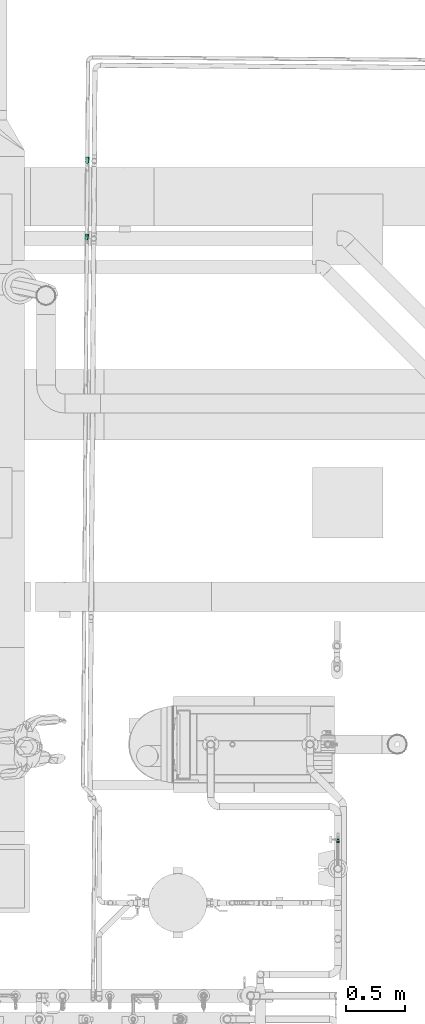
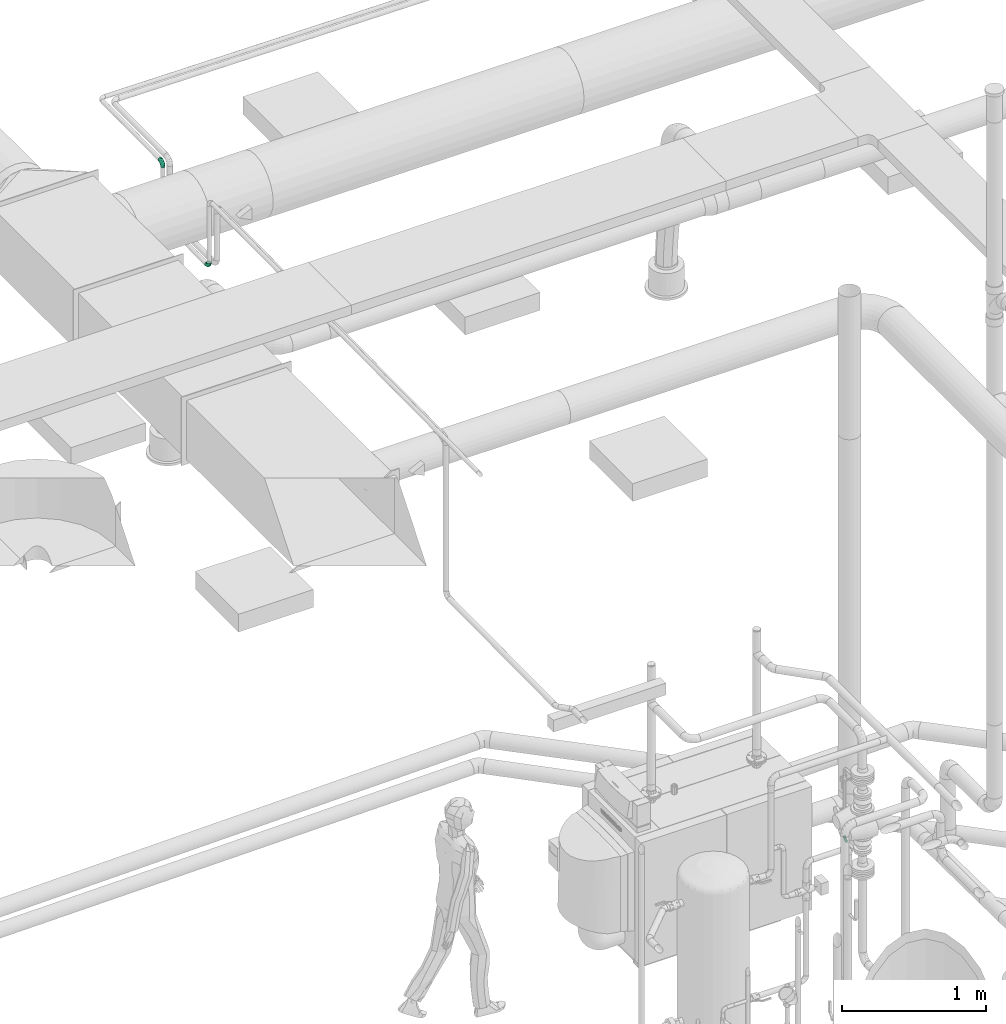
# One storey, part 198 of 374: 3 flow segments.
"""IFC2X3 building model written with IfcOpenShell, lengths in metres."""

from ifc_helpers import new_model, si_unit, direction, origin, place, context, subcontext, project, spatial, open_shell, surface_model, source, transform, mapped, element, save


model = new_model("IFC2X3")

# Units and contexts
model_context = context("Model", 3, precision=1e-05, world=origin(), true_north=direction((-0.4480736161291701, 0.8939966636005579)))
body_context = subcontext(model_context, "Body", "Model", "MODEL_VIEW")
ifc_project = project(units=[si_unit("LENGTHUNIT", "METRE"), si_unit("AREAUNIT", "SQUARE_METRE"), si_unit("VOLUMEUNIT", "CUBIC_METRE"), si_unit("PLANEANGLEUNIT", "RADIAN"), si_unit("THERMODYNAMICTEMPERATUREUNIT", "KELVIN"), si_unit("MASSUNIT", "GRAM", prefix="KILO"), si_unit("TIMEUNIT", "SECOND")], contexts=[model_context])

# Site, building, storey
site_placement = place(None, origin())
site = spatial("IfcSite", under=ifc_project, at=site_placement, Name="Site 1", CompositionType="ELEMENT")
building_placement = place(site_placement, origin())
building = spatial("IfcBuilding", under=site, at=building_placement, Name="Undefined", CompositionType="ELEMENT")
storey_placement = place(building_placement, origin())
storey = spatial("IfcBuildingStorey", under=building, at=storey_placement, Name="Rez de chauss\x8ee", CompositionType="ELEMENT", Elevation=0.0)

# Flow segments
shared_shape_1 = source(origin(), body_context, "Body", "SurfaceModel", [
    surface_model("IfcFaceBasedSurfaceModel", [(0.010089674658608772, 0.0, 1.33226763e-15), (0.010042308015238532, 0.002779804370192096, 1.33226763e-15), (4.73666433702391e-05, 0.0027798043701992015, 4.4408921e-16), (0.0, 0.0, 0.0), (-0.009607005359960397, 0.00311462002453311, -0.0025651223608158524), (-0.00974587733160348, 0.0003379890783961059, -0.0025894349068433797), (-0.01826287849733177, 0.003761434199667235, -0.007520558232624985), (-0.018483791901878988, 0.000990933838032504, -0.007591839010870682), (-0.025330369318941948, 0.004676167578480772, -0.014528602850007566), (-0.025618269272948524, 0.001914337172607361, -0.014666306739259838), (-0.030327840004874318, 0.005796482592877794, -0.023111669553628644), (-0.030663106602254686, 0.003045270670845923, -0.023330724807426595), (-0.03291472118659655, 0.00704603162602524, -0.03268483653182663), (-0.03327450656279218, 0.004306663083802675, -0.0329946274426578), (0.009903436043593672, 0.005463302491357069, -0.000713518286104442), (0.000186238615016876, 0.005463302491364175, -0.0007135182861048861), (-0.009199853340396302, 0.005788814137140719, -0.0032073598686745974), (-0.017615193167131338, 0.006417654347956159, -0.008025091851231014), (-0.02448628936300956, 0.007306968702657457, -0.014838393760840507), (-0.029344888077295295, 0.008396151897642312, -0.023182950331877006), (-0.031859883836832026, 0.009610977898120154, -0.0324900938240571), (0.009682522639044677, 0.007867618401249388, -0.002091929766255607), (0.0004071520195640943, 0.007867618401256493, -0.002091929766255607), (-0.008552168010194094, 0.008178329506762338, -0.004472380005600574), (-0.0165848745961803, 0.008778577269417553, -0.00907105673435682), (-0.023143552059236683, 0.00962745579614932, -0.015574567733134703), (-0.027781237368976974, 0.010667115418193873, -0.023539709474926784), (-0.030181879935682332, 0.011826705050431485, -0.03242367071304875), (0.009394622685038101, 0.009828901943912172, -0.0040412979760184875), (0.000695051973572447, 0.009828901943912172, -0.0040412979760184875), (-0.007708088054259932, 0.010120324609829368, -0.006273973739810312), (-0.015242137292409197, 0.010683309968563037, -0.010587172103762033), (-0.02139366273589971, 0.011479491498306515, -0.01668695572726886), (-0.0257434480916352, 0.012454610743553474, -0.02415763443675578), (-0.027995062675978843, 0.013542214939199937, -0.03249009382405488), (0.00905935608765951, 0.011213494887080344, -0.006428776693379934), (0.0010303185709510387, 0.01121349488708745, -0.006428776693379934), (-0.006725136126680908, 0.011482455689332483, -0.00848936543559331), (-0.0136784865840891, 0.01200204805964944, -0.01247011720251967), (-0.01935587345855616, 0.012736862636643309, -0.018099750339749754), (-0.02337039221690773, 0.013636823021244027, -0.024994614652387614), (-0.02544846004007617, 0.014640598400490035, -0.03268483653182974), (0.008699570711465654, 0.01192703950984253, -0.009091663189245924), (0.001390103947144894, 0.01192703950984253, -0.009091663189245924), (-0.005670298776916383, 0.01217189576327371, -0.010967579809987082), (-0.01200048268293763, 0.012644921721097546, -0.014591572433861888), (-0.017169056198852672, 0.013313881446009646, -0.01971667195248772), (-0.02082378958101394, 0.014133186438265, -0.025993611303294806), (-0.02271561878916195, 0.01504700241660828, -0.032994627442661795), (0.008339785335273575, 0.011920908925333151, -0.011848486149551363), (0.0017498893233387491, 0.011920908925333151, -0.011848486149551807), (-0.0046154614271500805, 0.012141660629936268, -0.013539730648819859), (-0.01032247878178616, 0.012568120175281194, -0.016806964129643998), (-0.014982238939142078, 0.013171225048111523, -0.02142753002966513), (-0.018277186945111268, 0.01390987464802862, -0.027086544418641), (-0.01998277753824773, 0.01473373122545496, -0.033398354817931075), (0.008004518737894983, 0.011195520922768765, -0.01451137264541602), (0.0020851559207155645, 0.011195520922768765, -0.014511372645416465), (-0.003632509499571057, 0.011393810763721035, -0.016030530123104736), (-0.008758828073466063, 0.011776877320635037, -0.018965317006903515), (-0.01294444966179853, 0.012318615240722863, -0.023115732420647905), (-0.01590413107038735, 0.012982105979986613, -0.028198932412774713), (-0.017436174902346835, 0.013722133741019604, -0.03386850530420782), (0.007716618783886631, 0.009800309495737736, -0.016898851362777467), (0.002373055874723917, 0.009800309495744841, -0.016898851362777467), (-0.0027884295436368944, 0.009979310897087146, -0.018270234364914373), (-0.007416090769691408, 0.010325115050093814, -0.020919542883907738), (-0.01119456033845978, 0.010814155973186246, -0.024666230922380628), (-0.013866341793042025, 0.011413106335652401, -0.02925496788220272), (-0.015249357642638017, 0.012081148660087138, -0.03437303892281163), (0.007495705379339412, 0.007830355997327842, -0.018848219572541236), (0.002593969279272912, 0.007830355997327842, -0.018848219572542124), (-0.00214074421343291, 0.00799455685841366, -0.02010621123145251), (-0.006385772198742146, 0.008311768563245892, -0.022536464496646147), (-0.009851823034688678, 0.008760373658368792, -0.025973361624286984), (-0.012302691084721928, 0.00930980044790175, -0.03018268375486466), (-0.013571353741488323, 0.009922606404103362, -0.034877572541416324), (0.007356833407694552, 0.0054199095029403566, -0.020226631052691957), (0.002732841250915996, 0.005419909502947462, -0.0202266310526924), (-0.0017335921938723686, 0.005574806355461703, -0.021413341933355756), (-0.005738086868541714, 0.005874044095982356, -0.023705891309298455), (-0.009007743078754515, 0.006297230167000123, -0.026948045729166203), (-0.011319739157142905, 0.006815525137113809, -0.030918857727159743), (-0.012516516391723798, 0.007393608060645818, -0.03534772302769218), (0.007309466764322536, 0.0027332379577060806, -0.020940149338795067), (0.0027802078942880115, 0.002733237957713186, -0.020940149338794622), (-0.001594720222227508, 0.0028849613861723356, -0.022102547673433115), (-0.0055171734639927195, 0.0031780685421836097, -0.024348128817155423), (-0.008719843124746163, 0.003592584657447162, -0.027523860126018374), (-0.010984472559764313, 0.004100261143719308, -0.03141332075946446), (-0.012156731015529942, 0.004666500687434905, -0.035751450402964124), (0.0073568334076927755, -4.6566412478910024e-05, -0.020940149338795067), (0.002732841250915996, -4.6566412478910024e-05, -0.02094014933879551), (-0.0017335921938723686, 0.00010833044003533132, -0.022126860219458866), (-0.005738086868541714, 0.00040756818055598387, -0.024419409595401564), (-0.009007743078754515, 0.0008307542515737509, -0.027661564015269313), (-0.011319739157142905, 0.0013490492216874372, -0.03163237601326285), (-0.012516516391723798, 0.0019271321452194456, -0.03606124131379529), (0.007495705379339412, -0.002730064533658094, -0.020226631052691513), (0.002593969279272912, -0.002730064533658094, -0.0202266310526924), (-0.00214074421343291, -0.002565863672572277, -0.021484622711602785), (-0.006385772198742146, -0.002248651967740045, -0.023914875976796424), (-0.009851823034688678, -0.0018000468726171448, -0.02735177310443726), (-0.012302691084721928, -0.0012506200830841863, -0.031561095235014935), (-0.013571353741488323, -0.0006378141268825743, -0.0362559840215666), (0.007716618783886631, -0.005134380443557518, -0.01884821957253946), (0.002373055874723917, -0.0051343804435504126, -0.01884821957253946), (-0.0027884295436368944, -0.004955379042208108, -0.020219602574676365), (-0.007416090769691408, -0.00460957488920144, -0.02286891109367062), (-0.01119456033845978, -0.004120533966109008, -0.026615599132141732), (-0.013866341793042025, -0.0035215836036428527, -0.031204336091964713), (-0.015249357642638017, -0.002853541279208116, -0.03632240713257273), (0.008004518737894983, -0.007095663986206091, -0.01689885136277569), (0.0020851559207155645, -0.007095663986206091, -0.016898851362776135), (-0.003632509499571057, -0.006897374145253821, -0.018418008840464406), (-0.008758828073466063, -0.006514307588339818, -0.021352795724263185), (-0.01294444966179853, -0.005972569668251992, -0.025503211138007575), (-0.01590413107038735, -0.005309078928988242, -0.030586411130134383), (-0.017436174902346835, -0.0045690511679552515, -0.03625598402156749), (0.008339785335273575, -0.008480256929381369, -0.014511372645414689), (0.0017498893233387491, -0.008480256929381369, -0.014511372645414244), (-0.0046154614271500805, -0.008259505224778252, -0.016202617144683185), (-0.01032247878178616, -0.007833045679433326, -0.019469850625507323), (-0.014982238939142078, -0.007229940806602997, -0.024090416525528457), (-0.018277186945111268, -0.006491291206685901, -0.029749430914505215), (-0.01998277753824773, -0.00566743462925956, -0.0360612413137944), (0.008699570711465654, -0.009193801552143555, -0.011848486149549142), (0.001390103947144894, -0.009193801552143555, -0.011848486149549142), (-0.005670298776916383, -0.008948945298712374, -0.013724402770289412), (-0.01200048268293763, -0.008475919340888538, -0.017348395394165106), (-0.017169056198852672, -0.007806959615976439, -0.022473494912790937), (-0.02082378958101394, -0.006987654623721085, -0.028750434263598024), (-0.02271561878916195, -0.006073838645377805, -0.035751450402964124), (0.00905935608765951, -0.009187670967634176, -0.00909166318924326), (0.0010303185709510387, -0.00918767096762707, -0.00909166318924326), (-0.006725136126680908, -0.008918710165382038, -0.011152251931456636), (-0.0136784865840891, -0.00839911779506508, -0.015133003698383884), (-0.01935587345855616, -0.007664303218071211, -0.02076263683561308), (-0.02337039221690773, -0.006764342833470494, -0.02765750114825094), (-0.02544846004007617, -0.005760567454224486, -0.03534772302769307), (0.009394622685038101, -0.008462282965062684, -0.006428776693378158), (0.000695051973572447, -0.008462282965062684, -0.006428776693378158), (-0.007708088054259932, -0.008170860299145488, -0.008661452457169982), (-0.015242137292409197, -0.0076078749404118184, -0.012974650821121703), (-0.02139366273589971, -0.00681169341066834, -0.01907443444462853), (-0.0257434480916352, -0.005836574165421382, -0.02654511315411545), (-0.027995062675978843, -0.004748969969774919, -0.03487757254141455), (0.009682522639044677, -0.007067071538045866, -0.004041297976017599), (0.0004071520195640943, -0.0070670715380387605, -0.004041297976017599), (-0.008552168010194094, -0.006756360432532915, -0.006421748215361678), (-0.0165848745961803, -0.0061561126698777, -0.011020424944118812), (-0.023143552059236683, -0.0053072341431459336, -0.017523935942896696), (-0.027781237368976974, -0.0042675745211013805, -0.02548907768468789), (-0.030181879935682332, -0.0031079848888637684, -0.03437303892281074), (0.009903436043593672, -0.005097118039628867, -0.0020919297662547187), (0.000186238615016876, -0.005097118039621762, -0.002091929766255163), (-0.009199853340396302, -0.004771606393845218, -0.004585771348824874), (-0.017615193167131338, -0.004142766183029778, -0.009403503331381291), (-0.02448628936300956, -0.0032534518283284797, -0.016216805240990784), (-0.029344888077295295, -0.0021642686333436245, -0.024561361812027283), (-0.031859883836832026, -0.0009494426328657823, -0.033868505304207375), (0.010042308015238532, -0.002686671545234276, -0.0007135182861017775), (4.73666433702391e-05, -0.0026866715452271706, -0.0007135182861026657), (-0.009607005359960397, -0.002351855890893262, -0.003278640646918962), (-0.01826287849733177, -0.0017050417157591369, -0.008234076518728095), (-0.025330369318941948, -0.0007903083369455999, -0.015242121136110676), (-0.030327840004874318, 0.0003300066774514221, -0.023825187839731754), (-0.03291472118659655, 0.0015795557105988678, -0.03339835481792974)], [open_shell([[[0, 1, 2, 3]], [[3, 2, 4, 5]], [[5, 4, 6, 7]], [[7, 6, 8, 9]], [[9, 8, 10, 11]], [[11, 10, 12, 13]], [[1, 14, 15, 2]], [[2, 15, 16, 4]], [[4, 16, 17, 6]], [[6, 17, 18, 8]], [[8, 18, 19, 10]], [[10, 19, 20, 12]], [[14, 21, 22, 15]], [[15, 22, 23, 16]], [[16, 23, 24, 17]], [[17, 24, 25, 18]], [[18, 25, 26, 19]], [[19, 26, 27, 20]], [[21, 28, 29, 22]], [[22, 29, 30, 23]], [[23, 30, 31, 24]], [[24, 31, 32, 25]], [[25, 32, 33, 26]], [[26, 33, 34, 27]], [[28, 35, 36, 29]], [[29, 36, 37, 30]], [[30, 37, 38, 31]], [[31, 38, 39, 32]], [[32, 39, 40, 33]], [[33, 40, 41, 34]], [[35, 42, 43, 36]], [[36, 43, 44, 37]], [[37, 44, 45, 38]], [[38, 45, 46, 39]], [[39, 46, 47, 40]], [[40, 47, 48, 41]], [[42, 49, 50, 43]], [[43, 50, 51, 44]], [[44, 51, 52, 45]], [[45, 52, 53, 46]], [[46, 53, 54, 47]], [[47, 54, 55, 48]], [[49, 56, 57, 50]], [[50, 57, 58, 51]], [[51, 58, 59, 52]], [[52, 59, 60, 53]], [[53, 60, 61, 54]], [[54, 61, 62, 55]], [[56, 63, 64, 57]], [[57, 64, 65, 58]], [[58, 65, 66, 59]], [[59, 66, 67, 60]], [[60, 67, 68, 61]], [[61, 68, 69, 62]], [[63, 70, 71, 64]], [[64, 71, 72, 65]], [[65, 72, 73, 66]], [[66, 73, 74, 67]], [[67, 74, 75, 68]], [[68, 75, 76, 69]], [[70, 77, 78, 71]], [[71, 78, 79, 72]], [[72, 79, 80, 73]], [[73, 80, 81, 74]], [[74, 81, 82, 75]], [[75, 82, 83, 76]], [[77, 84, 85, 78]], [[78, 85, 86, 79]], [[79, 86, 87, 80]], [[80, 87, 88, 81]], [[81, 88, 89, 82]], [[82, 89, 90, 83]], [[84, 91, 92, 85]], [[85, 92, 93, 86]], [[86, 93, 94, 87]], [[87, 94, 95, 88]], [[88, 95, 96, 89]], [[89, 96, 97, 90]], [[91, 98, 99, 92]], [[92, 99, 100, 93]], [[93, 100, 101, 94]], [[94, 101, 102, 95]], [[95, 102, 103, 96]], [[96, 103, 104, 97]], [[98, 105, 106, 99]], [[99, 106, 107, 100]], [[100, 107, 108, 101]], [[101, 108, 109, 102]], [[102, 109, 110, 103]], [[103, 110, 111, 104]], [[105, 112, 113, 106]], [[106, 113, 114, 107]], [[107, 114, 115, 108]], [[108, 115, 116, 109]], [[109, 116, 117, 110]], [[110, 117, 118, 111]], [[112, 119, 120, 113]], [[113, 120, 121, 114]], [[114, 121, 122, 115]], [[115, 122, 123, 116]], [[116, 123, 124, 117]], [[117, 124, 125, 118]], [[119, 126, 127, 120]], [[120, 127, 128, 121]], [[121, 128, 129, 122]], [[122, 129, 130, 123]], [[123, 130, 131, 124]], [[124, 131, 132, 125]], [[126, 133, 134, 127]], [[127, 134, 135, 128]], [[128, 135, 136, 129]], [[129, 136, 137, 130]], [[130, 137, 138, 131]], [[131, 138, 139, 132]], [[133, 140, 141, 134]], [[134, 141, 142, 135]], [[135, 142, 143, 136]], [[136, 143, 144, 137]], [[137, 144, 145, 138]], [[138, 145, 146, 139]], [[140, 147, 148, 141]], [[141, 148, 149, 142]], [[142, 149, 150, 143]], [[143, 150, 151, 144]], [[144, 151, 152, 145]], [[145, 152, 153, 146]], [[147, 154, 155, 148]], [[148, 155, 156, 149]], [[149, 156, 157, 150]], [[150, 157, 158, 151]], [[151, 158, 159, 152]], [[152, 159, 160, 153]], [[154, 161, 162, 155]], [[155, 162, 163, 156]], [[156, 163, 164, 157]], [[157, 164, 165, 158]], [[158, 165, 166, 159]], [[159, 166, 167, 160]], [[161, 0, 3, 162]], [[162, 3, 5, 163]], [[163, 5, 7, 164]], [[164, 7, 9, 165]], [[165, 9, 11, 166]], [[166, 11, 13, 167]]])]),
])
flow_segment_1_placement = place(storey_placement, origin())
element("IfcFlowSegment", 1, at=flow_segment_1_placement, inside=storey, Name="Tube coudé", ObjectType="Tube coudé", context=body_context, shape_type="MappedRepresentation", body=[
    mapped(shared_shape_1, transform((54.999329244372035, 12.255781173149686, 1.0358753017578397), x_axis=(0.0, 0.13052619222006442, 0.9914448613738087), y_axis=(0.9915887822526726, -0.12832103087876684, 0.016893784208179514), z_axis=(0.12942830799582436, 0.983105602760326, -0.1294283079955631))),
])
shared_shape_2 = source(origin(), body_context, "Body", "SurfaceModel", [
    surface_model("IfcFaceBasedSurfaceModel", [(0.014318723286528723, 0.0, 8.8817842e-16), (0.01424378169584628, 0.004398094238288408, 0.0), (7.494159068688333e-05, 0.004398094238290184, 0.0), (0.0, 0.0, 0.0), (-0.013611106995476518, 0.004872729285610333, -0.0036363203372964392), (-0.01383082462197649, 0.000479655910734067, -0.003674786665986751), (-0.02588168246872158, 0.005789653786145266, -0.010661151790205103), (-0.026231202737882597, 0.0014062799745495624, -0.010773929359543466), (-0.03590056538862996, 0.007086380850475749, -0.02059576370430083), (-0.036356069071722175, 0.0027167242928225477, -0.020813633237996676), (-0.04298498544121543, 0.008674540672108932, -0.03276312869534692), (-0.0435154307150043, 0.0043216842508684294, -0.03310970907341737), (-0.046652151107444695, 0.010445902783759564, -0.04633406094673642), (-0.04722138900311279, 0.006111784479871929, -0.04682419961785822), (0.01402406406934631, 0.008643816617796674, -0.00112889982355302), (0.0002946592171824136, 0.00864381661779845, -0.001128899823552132), (-0.01296692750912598, 0.009103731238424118, -0.00465244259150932), (-0.02485694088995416, 0.009992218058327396, -0.011459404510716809), (-0.03456509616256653, 0.011248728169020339, -0.021085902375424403), (-0.041429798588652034, 0.012787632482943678, -0.03287590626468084), (-0.04498323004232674, 0.014504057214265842, -0.04602594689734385), (0.013674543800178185, 0.012447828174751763, -0.0033097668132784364), (0.0006441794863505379, 0.012447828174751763, -0.003309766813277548), (-0.011942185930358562, 0.012884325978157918, -0.006653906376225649), (-0.023226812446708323, 0.013727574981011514, -0.01311428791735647), (-0.032440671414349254, 0.014920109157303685, -0.022250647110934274), (-0.038955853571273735, 0.016380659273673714, -0.03344035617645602), (-0.04232836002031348, 0.01800969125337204, -0.04592085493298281), (0.013219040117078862, 0.01555089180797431, -0.006393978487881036), (0.0010996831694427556, 0.015550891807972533, -0.006393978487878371), (-0.010606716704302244, 0.015956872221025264, -0.009504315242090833), (-0.021102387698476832, 0.016741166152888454, -0.01551302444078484), (-0.029672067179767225, 0.01785032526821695, -0.024010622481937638), (-0.035731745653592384, 0.01920876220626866, -0.03441801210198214), (-0.038868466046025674, 0.02072390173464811, -0.04602594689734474), (0.012688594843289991, 0.01774153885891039, -0.010171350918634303), (0.0016301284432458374, 0.01774153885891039, -0.010171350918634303), (-0.009051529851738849, 0.018111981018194, -0.013009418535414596), (-0.01862844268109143, 0.01882762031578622, -0.018492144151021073), (-0.026447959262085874, 0.019839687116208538, -0.02624588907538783), (-0.03197719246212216, 0.021079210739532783, -0.03574224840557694), (-0.034839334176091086, 0.022461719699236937, -0.04633406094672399), (0.012119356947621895, 0.018870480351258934, -0.014384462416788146), (0.0021993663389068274, 0.018870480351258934, -0.014384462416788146), (-0.007382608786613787, 0.019202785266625, -0.016930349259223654), (-0.015973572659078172, 0.019844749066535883, -0.021848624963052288), (-0.022988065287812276, 0.020752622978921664, -0.02880411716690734), (-0.027948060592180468, 0.021864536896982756, -0.03732282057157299), (-0.030515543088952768, 0.023104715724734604, -0.04682419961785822), (0.0115501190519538, 0.018860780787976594, -0.01874619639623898), (0.002768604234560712, 0.018860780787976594, -0.01874619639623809), (-0.005713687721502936, 0.019154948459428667, -0.020999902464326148), (-0.013318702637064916, 0.01972323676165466, -0.025353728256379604), (-0.019528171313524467, 0.02052691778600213, -0.03151096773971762), (-0.023918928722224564, 0.021511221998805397, -0.03905201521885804), (-0.02619175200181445, 0.02260907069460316, -0.04746296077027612), (0.011019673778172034, 0.01771310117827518, -0.022959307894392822), (0.0032990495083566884, 0.01771310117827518, -0.022959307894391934), (-0.004158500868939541, 0.017971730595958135, -0.0249407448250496), (-0.010844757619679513, 0.018471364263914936, -0.028768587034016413), (-0.01630406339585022, 0.019177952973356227, -0.03418197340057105), (-0.020164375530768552, 0.0200433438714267, -0.04081199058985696), (-0.022162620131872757, 0.02100856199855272, -0.04820681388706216), (0.010564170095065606, 0.015505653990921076, -0.02673668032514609), (0.0037545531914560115, 0.015505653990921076, -0.0267366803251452), (-0.002823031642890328, 0.01573376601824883, -0.028484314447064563), (-0.008720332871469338, 0.016174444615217, -0.03186048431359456), (-0.01353545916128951, 0.016797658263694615, -0.036635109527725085), (-0.016940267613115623, 0.017560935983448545, -0.042482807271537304), (-0.018702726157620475, 0.01841226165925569, -0.04900506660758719), (0.010214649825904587, 0.012388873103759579, -0.029820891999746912), (0.004104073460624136, 0.012388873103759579, -0.029820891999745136), (-0.0017982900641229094, 0.012593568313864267, -0.03138912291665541), (-0.007090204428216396, 0.012989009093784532, -0.03441871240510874), (-0.011411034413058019, 0.013548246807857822, -0.0387031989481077), (-0.014466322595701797, 0.014233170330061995, -0.04395060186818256), (-0.01604785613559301, 0.014997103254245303, -0.0498033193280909), (0.009994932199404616, 0.008575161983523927, -0.03200175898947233), (0.004323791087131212, 0.00857516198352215, -0.03200175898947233), (-0.001154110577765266, 0.00876513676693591, -0.03345721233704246), (-0.006065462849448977, 0.009132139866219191, -0.03626893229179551), (-0.0100755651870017, 0.009651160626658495, -0.04024530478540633), (-0.012911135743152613, 0.010286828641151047, -0.04511534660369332), (-0.014378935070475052, 0.010995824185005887, -0.05054717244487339), (0.009919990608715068, 0.004324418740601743, -0.03313065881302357), (0.004398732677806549, 0.004324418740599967, -0.03313065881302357), (-0.0009343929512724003, 0.004509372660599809, -0.03454764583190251), (-0.005715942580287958, 0.004866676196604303, -0.03728505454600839), (-0.009620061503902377, 0.005371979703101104, -0.041156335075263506), (-0.012380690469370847, 0.005990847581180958, -0.04589766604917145), (-0.013809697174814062, 0.006681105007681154, -0.05118593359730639), (0.009994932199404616, -7.367549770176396e-05, -0.033130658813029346), (0.0043237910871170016, -7.367549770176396e-05, -0.03313065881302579), (-0.0011541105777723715, 0.00011629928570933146, -0.03458611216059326), (-0.0060654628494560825, 0.00048330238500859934, -0.03739783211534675), (-0.010075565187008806, 0.0010023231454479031, -0.04137420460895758), (-0.012911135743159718, 0.001637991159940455, -0.04624424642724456), (-0.014378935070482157, 0.002346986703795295, -0.05167607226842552), (0.010214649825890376, -0.004319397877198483, -0.03200175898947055), (0.00410407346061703, -0.0043193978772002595, -0.03200175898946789), (-0.0017982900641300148, -0.004114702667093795, -0.03356998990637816), (-0.007090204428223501, -0.0037192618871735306, -0.036599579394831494), (-0.011411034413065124, -0.00316002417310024, -0.04088406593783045), (-0.014466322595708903, -0.002475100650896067, -0.04613146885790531), (-0.016047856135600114, -0.0017111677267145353, -0.05198418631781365), (0.0105641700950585, -0.008123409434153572, -0.029820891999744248), (0.003754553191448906, -0.008123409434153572, -0.02982089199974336), (-0.0028230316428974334, -0.007895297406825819, -0.03156852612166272), (-0.008720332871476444, -0.007454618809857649, -0.03494469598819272), (-0.013535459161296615, -0.006831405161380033, -0.03971932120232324), (-0.016940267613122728, -0.006068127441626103, -0.04556701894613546), (-0.01870272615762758, -0.005216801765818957, -0.05208927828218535), (0.011019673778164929, -0.011226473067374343, -0.026736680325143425), (0.003299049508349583, -0.011226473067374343, -0.026736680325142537), (-0.004158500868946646, -0.010967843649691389, -0.028718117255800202), (-0.010844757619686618, -0.010468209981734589, -0.032545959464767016), (-0.016304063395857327, -0.009761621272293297, -0.037959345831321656), (-0.020164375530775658, -0.008896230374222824, -0.044589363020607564), (-0.022162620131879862, -0.007931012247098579, -0.051984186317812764), (0.011550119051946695, -0.013417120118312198, -0.02295930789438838), (0.0027686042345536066, -0.013417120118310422, -0.022959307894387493), (-0.005713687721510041, -0.013122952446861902, -0.02521301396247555), (-0.013318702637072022, -0.012554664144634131, -0.029566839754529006), (-0.019528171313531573, -0.011750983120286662, -0.035724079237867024), (-0.02391892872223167, -0.010766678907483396, -0.04326512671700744), (-0.026191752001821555, -0.009668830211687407, -0.05167607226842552), (0.01211935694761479, -0.014546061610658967, -0.018746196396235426), (0.002199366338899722, -0.014546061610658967, -0.018746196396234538), (-0.007382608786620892, -0.0142137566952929, -0.021292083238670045), (-0.015973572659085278, -0.013571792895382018, -0.02621035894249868), (-0.02298806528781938, -0.012663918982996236, -0.03316585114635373), (-0.027948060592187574, -0.011552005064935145, -0.04168455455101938), (-0.030515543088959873, -0.010311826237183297, -0.05118593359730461), (0.012688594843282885, -0.014536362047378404, -0.014384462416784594), (0.001630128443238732, -0.014536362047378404, -0.014384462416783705), (-0.009051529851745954, -0.014165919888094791, -0.017222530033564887), (-0.018628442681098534, -0.013450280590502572, -0.022705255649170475), (-0.02644795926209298, -0.012438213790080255, -0.03045900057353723), (-0.03197719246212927, -0.011198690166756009, -0.03995535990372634), (-0.03483933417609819, -0.009816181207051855, -0.05054717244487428), (0.013219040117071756, -0.013388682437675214, -0.010171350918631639), (0.0010996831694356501, -0.01338868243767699, -0.010171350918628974), (-0.010606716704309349, -0.01298270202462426, -0.013281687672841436), (-0.021102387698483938, -0.01219840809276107, -0.019290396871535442), (-0.02967206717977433, -0.011089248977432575, -0.02778799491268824), (-0.03573174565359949, -0.009730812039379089, -0.038195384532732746), (-0.03886846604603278, -0.008215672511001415, -0.04980331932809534), (0.01367454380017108, -0.011181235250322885, -0.006393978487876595), (0.0006441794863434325, -0.011181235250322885, -0.006393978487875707), (-0.011942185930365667, -0.01074473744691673, -0.009738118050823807), (-0.023226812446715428, -0.009901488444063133, -0.01619849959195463), (-0.03244067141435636, -0.008708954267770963, -0.02533485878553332), (-0.03895585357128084, -0.007248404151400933, -0.03652456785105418), (-0.04232836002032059, -0.005619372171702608, -0.04900506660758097), (0.014024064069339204, -0.008064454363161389, -0.003309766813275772), (0.0002946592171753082, -0.008064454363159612, -0.0033097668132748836), (-0.012966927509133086, -0.0076045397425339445, -0.006833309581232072), (-0.024856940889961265, -0.0067160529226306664, -0.01364027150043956), (-0.03456509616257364, -0.005459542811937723, -0.023266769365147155), (-0.04142979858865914, -0.003920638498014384, -0.03505677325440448), (-0.044983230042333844, -0.00220421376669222, -0.0482068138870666), (0.014243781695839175, -0.004250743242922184, -0.0011288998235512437), (7.494159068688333e-05, -0.004250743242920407, -0.0011288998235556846), (-0.013611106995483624, -0.0037761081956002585, -0.004765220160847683), (-0.025881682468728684, -0.002859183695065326, -0.011790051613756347), (-0.03590056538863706, -0.001562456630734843, -0.021724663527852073), (-0.042984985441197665, 2.570319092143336e-05, -0.033892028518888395), (-0.0466521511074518, 0.0017970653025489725, -0.047462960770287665), (7.494159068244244e-05, -0.004250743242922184, -0.0011288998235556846)], [open_shell([[[0, 1, 2, 3]], [[3, 2, 4, 5]], [[5, 4, 6, 7]], [[7, 6, 8, 9]], [[9, 8, 10, 11]], [[11, 10, 12, 13]], [[1, 14, 15, 2]], [[2, 15, 16, 4]], [[4, 16, 17, 6]], [[6, 17, 18, 8]], [[8, 18, 19, 10]], [[10, 19, 20, 12]], [[14, 21, 22, 15]], [[15, 22, 23, 16]], [[16, 23, 24, 17]], [[17, 24, 25, 18]], [[18, 25, 26, 19]], [[19, 26, 27, 20]], [[21, 28, 29, 22]], [[22, 29, 30, 23]], [[23, 30, 31, 24]], [[24, 31, 32, 25]], [[25, 32, 33, 26]], [[26, 33, 34, 27]], [[28, 35, 36, 29]], [[29, 36, 37, 30]], [[30, 37, 38, 31]], [[31, 38, 39, 32]], [[32, 39, 40, 33]], [[33, 40, 41, 34]], [[35, 42, 43, 36]], [[36, 43, 44, 37]], [[37, 44, 45, 38]], [[38, 45, 46, 39]], [[39, 46, 47, 40]], [[40, 47, 48, 41]], [[42, 49, 50, 43]], [[43, 50, 51, 44]], [[44, 51, 52, 45]], [[45, 52, 53, 46]], [[46, 53, 54, 47]], [[47, 54, 55, 48]], [[49, 56, 57, 50]], [[50, 57, 58, 51]], [[51, 58, 59, 52]], [[52, 59, 60, 53]], [[53, 60, 61, 54]], [[54, 61, 62, 55]], [[56, 63, 64, 57]], [[57, 64, 65, 58]], [[58, 65, 66, 59]], [[59, 66, 67, 60]], [[60, 67, 68, 61]], [[61, 68, 69, 62]], [[63, 70, 71, 64]], [[64, 71, 72, 65]], [[65, 72, 73, 66]], [[66, 73, 74, 67]], [[67, 74, 75, 68]], [[68, 75, 76, 69]], [[70, 77, 78, 71]], [[71, 78, 79, 72]], [[72, 79, 80, 73]], [[73, 80, 81, 74]], [[74, 81, 82, 75]], [[75, 82, 83, 76]], [[77, 84, 85, 78]], [[78, 85, 86, 79]], [[79, 86, 87, 80]], [[80, 87, 88, 81]], [[81, 88, 89, 82]], [[82, 89, 90, 83]], [[84, 91, 92, 85]], [[85, 92, 93, 86]], [[86, 93, 94, 87]], [[87, 94, 95, 88]], [[88, 95, 96, 89]], [[89, 96, 97, 90]], [[91, 98, 99, 92]], [[92, 99, 100, 93]], [[93, 100, 101, 94]], [[94, 101, 102, 95]], [[95, 102, 103, 96]], [[96, 103, 104, 97]], [[98, 105, 106, 99]], [[99, 106, 107, 100]], [[100, 107, 108, 101]], [[101, 108, 109, 102]], [[102, 109, 110, 103]], [[103, 110, 111, 104]], [[105, 112, 113, 106]], [[106, 113, 114, 107]], [[107, 114, 115, 108]], [[108, 115, 116, 109]], [[109, 116, 117, 110]], [[110, 117, 118, 111]], [[112, 119, 120, 113]], [[113, 120, 121, 114]], [[114, 121, 122, 115]], [[115, 122, 123, 116]], [[116, 123, 124, 117]], [[117, 124, 125, 118]], [[119, 126, 127, 120]], [[120, 127, 128, 121]], [[121, 128, 129, 122]], [[122, 129, 130, 123]], [[123, 130, 131, 124]], [[124, 131, 132, 125]], [[126, 133, 134, 127]], [[127, 134, 135, 128]], [[128, 135, 136, 129]], [[129, 136, 137, 130]], [[130, 137, 138, 131]], [[131, 138, 139, 132]], [[133, 140, 141, 134]], [[134, 141, 142, 135]], [[135, 142, 143, 136]], [[136, 143, 144, 137]], [[137, 144, 145, 138]], [[138, 145, 146, 139]], [[140, 147, 148, 141]], [[141, 148, 149, 142]], [[142, 149, 150, 143]], [[143, 150, 151, 144]], [[144, 151, 152, 145]], [[145, 152, 153, 146]], [[147, 154, 155, 148]], [[148, 155, 156, 149]], [[149, 156, 157, 150]], [[150, 157, 158, 151]], [[151, 158, 159, 152]], [[152, 159, 160, 153]], [[154, 161, 162, 155]], [[155, 162, 163, 156]], [[156, 163, 164, 157]], [[157, 164, 165, 158]], [[158, 165, 166, 159]], [[159, 166, 167, 160]], [[161, 0, 3, 162]], [[168, 3, 5, 163]], [[163, 5, 7, 164]], [[164, 7, 9, 165]], [[165, 9, 11, 166]], [[166, 11, 13, 167]]])]),
])
flow_segment_2_placement = place(storey_placement, origin())
element("IfcFlowSegment", 2, at=flow_segment_2_placement, inside=storey, Name="Tube coudé", ObjectType="Tube coudé", context=body_context, shape_type="MappedRepresentation", body=[
    mapped(shared_shape_2, transform((52.86750199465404, 18.036918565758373, 4.020121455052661), x_axis=(0.006921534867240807, 0.9914207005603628, 0.13052619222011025), y_axis=(-0.9914466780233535, 0.023815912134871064, -0.12832103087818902), z_axis=(-0.13032872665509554, -0.12852158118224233, 0.9831056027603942))),
])
flow_segment_3_placement = place(storey_placement, origin())
element("IfcFlowSegment", 3, at=flow_segment_3_placement, inside=storey, Name="Tube coudé", ObjectType="Tube coudé", context=body_context, shape_type="MappedRepresentation", body=[
    mapped(shared_shape_2, transform((52.86267769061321, 17.345899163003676, 3.5407581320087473), x_axis=(-0.0009112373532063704, -0.1305230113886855, 0.9914448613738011), y_axis=(-0.9906687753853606, 0.13524044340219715, 0.016893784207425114), z_axis=(-0.13628847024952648, -0.9821780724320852, -0.12942830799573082))),
])

save(model, "model.ifc")
